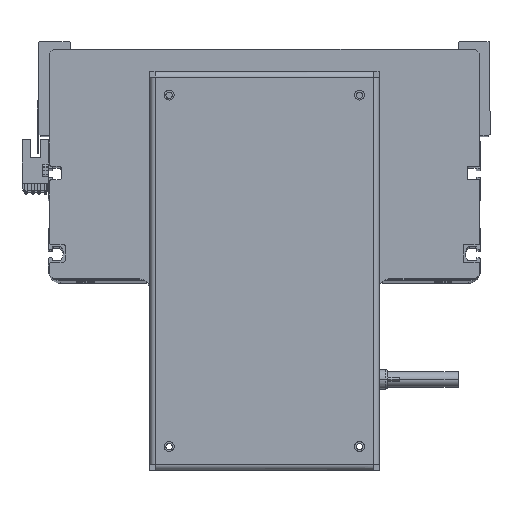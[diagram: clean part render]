
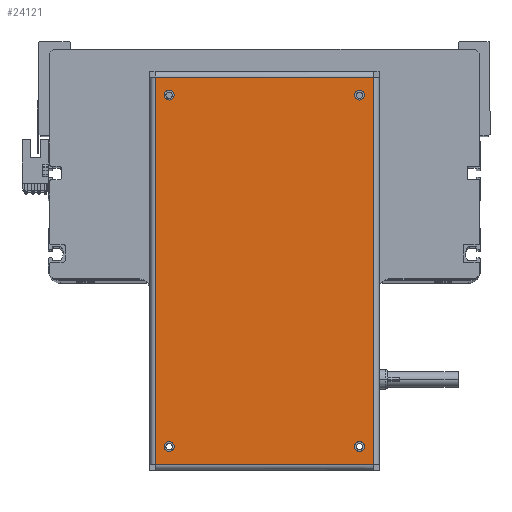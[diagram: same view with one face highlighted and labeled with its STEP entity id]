
A CAD part, top view. The second image highlights one B-rep face of the part: STEP entity #24121.
In plain terms, the highlighted planar face has unit normal (0, 0, 1).
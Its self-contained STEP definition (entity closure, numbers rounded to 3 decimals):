
#63 = DIRECTION ( 'NONE',  ( 0., 0., 1. ) ) ;
#145 = CARTESIAN_POINT ( 'NONE',  ( 92.05, -48.5, 0. ) ) ;
#223 = DIRECTION ( 'NONE',  ( 1., 0., 0. ) ) ;
#289 = CARTESIAN_POINT ( 'NONE',  ( 89.55, 48.5, 0. ) ) ;
#327 = DIRECTION ( 'NONE',  ( 1., 0., 0. ) ) ;
#450 = CARTESIAN_POINT ( 'NONE',  ( 89.55, 48.5, 0. ) ) ;
#486 = EDGE_CURVE ( 'NONE', #16405, #9108, #13386, .T. ) ;
#1241 = CARTESIAN_POINT ( 'NONE',  ( 87.05, -48.5, 0. ) ) ;
#1443 = CIRCLE ( 'NONE', #14110, 2.5 ) ;
#1502 = EDGE_CURVE ( 'NONE', #7346, #30444, #19935, .T. ) ;
#1548 = ORIENTED_EDGE ( 'NONE', *, *, #36373, .T. ) ;
#1775 = LINE ( 'NONE', #6110, #5552 ) ;
#2430 = VERTEX_POINT ( 'NONE', #1241 ) ;
#2753 = CARTESIAN_POINT ( 'NONE',  ( 92.05, 48.5, 0. ) ) ;
#2804 = DIRECTION ( 'NONE',  ( -1., 0., 0. ) ) ;
#2981 = CARTESIAN_POINT ( 'NONE',  ( 89.55, -48.5, 0. ) ) ;
#3073 = EDGE_CURVE ( 'NONE', #4779, #6525, #1775, .T. ) ;
#3282 = ORIENTED_EDGE ( 'NONE', *, *, #29603, .T. ) ;
#4433 = EDGE_LOOP ( 'NONE', ( #36180, #37057 ) ) ;
#4779 = VERTEX_POINT ( 'NONE', #11141 ) ;
#5084 = VECTOR ( 'NONE', #20935, 1000. ) ;
#5112 = AXIS2_PLACEMENT_3D ( 'NONE', #2981, #18408, #223 ) ;
#5529 = FACE_BOUND ( 'NONE', #38512, .T. ) ;
#5552 = VECTOR ( 'NONE', #2804, 1000. ) ;
#5801 = AXIS2_PLACEMENT_3D ( 'NONE', #450, #36634, #24853 ) ;
#6025 = LINE ( 'NONE', #24527, #5084 ) ;
#6110 = CARTESIAN_POINT ( 'NONE',  ( 98.75, 55.6, 0. ) ) ;
#6283 = AXIS2_PLACEMENT_3D ( 'NONE', #37703, #13062, #21830 ) ;
#6525 = VERTEX_POINT ( 'NONE', #16670 ) ;
#6940 = DIRECTION ( 'NONE',  ( 1., 0., 0. ) ) ;
#7346 = VERTEX_POINT ( 'NONE', #12391 ) ;
#7513 = CARTESIAN_POINT ( 'NONE',  ( -98.65, -55.6, 0. ) ) ;
#7669 = EDGE_CURVE ( 'NONE', #10425, #37737, #1443, .T. ) ;
#8140 = VERTEX_POINT ( 'NONE', #15937 ) ;
#8352 = VERTEX_POINT ( 'NONE', #7513 ) ;
#8844 = FACE_OUTER_BOUND ( 'NONE', #27707, .T. ) ;
#9108 = VERTEX_POINT ( 'NONE', #2753 ) ;
#9405 = ORIENTED_EDGE ( 'NONE', *, *, #13198, .F. ) ;
#10002 = ORIENTED_EDGE ( 'NONE', *, *, #21457, .T. ) ;
#10425 = VERTEX_POINT ( 'NONE', #32162 ) ;
#10495 = EDGE_CURVE ( 'NONE', #37737, #10425, #24778, .T. ) ;
#10743 = FACE_BOUND ( 'NONE', #31006, .T. ) ;
#11141 = CARTESIAN_POINT ( 'NONE',  ( 98.65, 55.6, 0. ) ) ;
#11199 = DIRECTION ( 'NONE',  ( 0., 0., 1. ) ) ;
#11538 = ORIENTED_EDGE ( 'NONE', *, *, #34368, .F. ) ;
#11831 = CIRCLE ( 'NONE', #13581, 2.5 ) ;
#12354 = DIRECTION ( 'NONE',  ( 0., 0., 1. ) ) ;
#12391 = CARTESIAN_POINT ( 'NONE',  ( -87.05, 48.5, 0. ) ) ;
#12447 = CARTESIAN_POINT ( 'NONE',  ( -87.05, -48.5, 0. ) ) ;
#13062 = DIRECTION ( 'NONE',  ( 0., 0., 1. ) ) ;
#13134 = DIRECTION ( 'NONE',  ( 1., 0., 0. ) ) ;
#13198 = EDGE_CURVE ( 'NONE', #29964, #2430, #33185, .T. ) ;
#13386 = CIRCLE ( 'NONE', #18557, 2.5 ) ;
#13581 = AXIS2_PLACEMENT_3D ( 'NONE', #29583, #11199, #20126 ) ;
#13721 = DIRECTION ( 'NONE',  ( -1., 0., 0. ) ) ;
#14110 = AXIS2_PLACEMENT_3D ( 'NONE', #17154, #14259, #32468 ) ;
#14131 = ORIENTED_EDGE ( 'NONE', *, *, #33804, .F. ) ;
#14259 = DIRECTION ( 'NONE',  ( 0., 0., 1. ) ) ;
#14714 = CARTESIAN_POINT ( 'NONE',  ( -98.65, 55.6, 0. ) ) ;
#15822 = AXIS2_PLACEMENT_3D ( 'NONE', #18988, #22040, #13134 ) ;
#15937 = CARTESIAN_POINT ( 'NONE',  ( 98.65, -55.6, 0. ) ) ;
#16405 = VERTEX_POINT ( 'NONE', #31470 ) ;
#16670 = CARTESIAN_POINT ( 'NONE',  ( -98.65, 55.6, 0. ) ) ;
#17154 = CARTESIAN_POINT ( 'NONE',  ( -89.55, -48.5, 0. ) ) ;
#18408 = DIRECTION ( 'NONE',  ( 0., 0., 1. ) ) ;
#18557 = AXIS2_PLACEMENT_3D ( 'NONE', #289, #12354, #24055 ) ;
#18675 = ORIENTED_EDGE ( 'NONE', *, *, #10495, .F. ) ;
#18988 = CARTESIAN_POINT ( 'NONE',  ( 89.55, -48.5, 0. ) ) ;
#19935 = CIRCLE ( 'NONE', #29504, 2.5 ) ;
#19978 = ORIENTED_EDGE ( 'NONE', *, *, #1502, .F. ) ;
#20126 = DIRECTION ( 'NONE',  ( 1., 0., 0. ) ) ;
#20258 = CIRCLE ( 'NONE', #5801, 2.5 ) ;
#20802 = DIRECTION ( 'NONE',  ( 0., -1., 0. ) ) ;
#20935 = DIRECTION ( 'NONE',  ( 0., 1., 0. ) ) ;
#21457 = EDGE_CURVE ( 'NONE', #8352, #8140, #28018, .T. ) ;
#21830 = DIRECTION ( 'NONE',  ( 1., 0., 0. ) ) ;
#22040 = DIRECTION ( 'NONE',  ( 0., 0., 1. ) ) ;
#23996 = CARTESIAN_POINT ( 'NONE',  ( -92.05, 48.5, 0. ) ) ;
#24055 = DIRECTION ( 'NONE',  ( 1., 0., 0. ) ) ;
#24121 = ADVANCED_FACE ( 'NONE', ( #28868, #10743, #5529, #37463, #8844 ), #38090, .F. ) ;
#24527 = CARTESIAN_POINT ( 'NONE',  ( 98.65, -55.6, 0. ) ) ;
#24778 = CIRCLE ( 'NONE', #6283, 2.5 ) ;
#24853 = DIRECTION ( 'NONE',  ( 1., 0., 0. ) ) ;
#25625 = VECTOR ( 'NONE', #6940, 1000. ) ;
#27707 = EDGE_LOOP ( 'NONE', ( #1548, #10002, #3282, #35336 ) ) ;
#28018 = LINE ( 'NONE', #34240, #25625 ) ;
#28427 = VECTOR ( 'NONE', #20802, 1000. ) ;
#28868 = FACE_BOUND ( 'NONE', #31590, .T. ) ;
#29409 = DIRECTION ( 'NONE',  ( 0., 0., -1. ) ) ;
#29504 = AXIS2_PLACEMENT_3D ( 'NONE', #36518, #63, #327 ) ;
#29583 = CARTESIAN_POINT ( 'NONE',  ( -89.55, 48.5, 0. ) ) ;
#29603 = EDGE_CURVE ( 'NONE', #8140, #4779, #6025, .T. ) ;
#29732 = AXIS2_PLACEMENT_3D ( 'NONE', #35394, #29409, #13721 ) ;
#29964 = VERTEX_POINT ( 'NONE', #145 ) ;
#30444 = VERTEX_POINT ( 'NONE', #23996 ) ;
#31003 = CIRCLE ( 'NONE', #5112, 2.5 ) ;
#31006 = EDGE_LOOP ( 'NONE', ( #19978, #11538 ) ) ;
#31037 = EDGE_CURVE ( 'NONE', #9108, #16405, #20258, .T. ) ;
#31470 = CARTESIAN_POINT ( 'NONE',  ( 87.05, 48.5, 0. ) ) ;
#31590 = EDGE_LOOP ( 'NONE', ( #18675, #36374 ) ) ;
#32162 = CARTESIAN_POINT ( 'NONE',  ( -92.05, -48.5, 0. ) ) ;
#32468 = DIRECTION ( 'NONE',  ( 1., 0., 0. ) ) ;
#33185 = CIRCLE ( 'NONE', #15822, 2.5 ) ;
#33628 = LINE ( 'NONE', #14714, #28427 ) ;
#33804 = EDGE_CURVE ( 'NONE', #2430, #29964, #31003, .T. ) ;
#34240 = CARTESIAN_POINT ( 'NONE',  ( -98.75, -55.6, 0. ) ) ;
#34368 = EDGE_CURVE ( 'NONE', #30444, #7346, #11831, .T. ) ;
#35336 = ORIENTED_EDGE ( 'NONE', *, *, #3073, .T. ) ;
#35394 = CARTESIAN_POINT ( 'NONE',  ( 98.75, 58.5, 0. ) ) ;
#36180 = ORIENTED_EDGE ( 'NONE', *, *, #31037, .F. ) ;
#36373 = EDGE_CURVE ( 'NONE', #6525, #8352, #33628, .T. ) ;
#36374 = ORIENTED_EDGE ( 'NONE', *, *, #7669, .F. ) ;
#36518 = CARTESIAN_POINT ( 'NONE',  ( -89.55, 48.5, 0. ) ) ;
#36634 = DIRECTION ( 'NONE',  ( 0., 0., 1. ) ) ;
#37057 = ORIENTED_EDGE ( 'NONE', *, *, #486, .F. ) ;
#37463 = FACE_BOUND ( 'NONE', #4433, .T. ) ;
#37703 = CARTESIAN_POINT ( 'NONE',  ( -89.55, -48.5, 0. ) ) ;
#37737 = VERTEX_POINT ( 'NONE', #12447 ) ;
#38090 = PLANE ( 'NONE',  #29732 ) ;
#38512 = EDGE_LOOP ( 'NONE', ( #9405, #14131 ) ) ;
